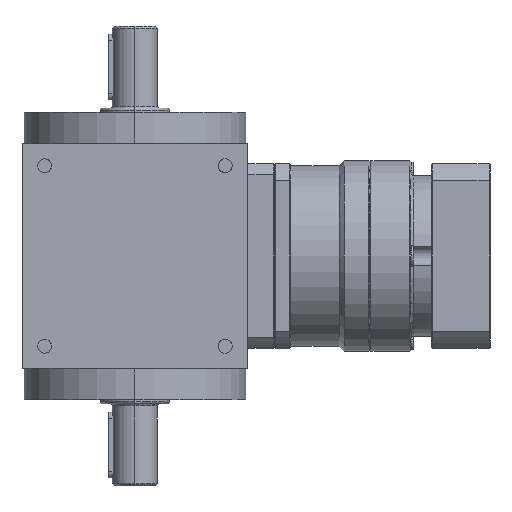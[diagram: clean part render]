
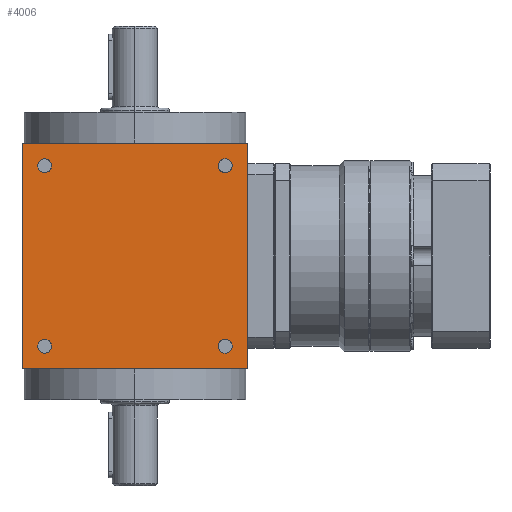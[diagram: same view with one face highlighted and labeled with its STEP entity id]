
A CAD part, left-side view. The second image highlights one B-rep face of the part: STEP entity #4006.
In plain terms, the highlighted planar face has unit normal (-1, 0, 0).
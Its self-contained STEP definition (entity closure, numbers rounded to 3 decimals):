
#140 = CARTESIAN_POINT ( 'NONE',  ( -55., 44., 44. ) ) ;
#451 = VECTOR ( 'NONE', #33646, 1000. ) ;
#1080 = ORIENTED_EDGE ( 'NONE', *, *, #14288, .T. ) ;
#1722 = PLANE ( 'NONE',  #2463 ) ;
#1997 = VERTEX_POINT ( 'NONE', #7296 ) ;
#2412 = ORIENTED_EDGE ( 'NONE', *, *, #6162, .T. ) ;
#2463 = AXIS2_PLACEMENT_3D ( 'NONE', #39707, #24111, #14844 ) ;
#2602 = DIRECTION ( 'NONE',  ( 1., 0., 0. ) ) ;
#3085 = LINE ( 'NONE', #15387, #3656 ) ;
#3389 = CARTESIAN_POINT ( 'NONE',  ( -55., -44., -40.6 ) ) ;
#3532 = AXIS2_PLACEMENT_3D ( 'NONE', #23368, #35496, #23161 ) ;
#3633 = ORIENTED_EDGE ( 'NONE', *, *, #23619, .T. ) ;
#3656 = VECTOR ( 'NONE', #28345, 1000. ) ;
#4006 = ADVANCED_FACE ( 'NONE', ( #23498, #7912, #4823, #17312, #39507 ), #1722, .T. ) ;
#4295 = CIRCLE ( 'NONE', #32394, 3.4 ) ;
#4499 = LINE ( 'NONE', #4694, #13729 ) ;
#4624 = CARTESIAN_POINT ( 'NONE',  ( -55., -44., -47.4 ) ) ;
#4694 = CARTESIAN_POINT ( 'NONE',  ( -55., -55., -55. ) ) ;
#4713 = DIRECTION ( 'NONE',  ( 0., 0., 1. ) ) ;
#4810 = DIRECTION ( 'NONE',  ( 0., 1., 0. ) ) ;
#4823 = FACE_BOUND ( 'NONE', #22951, .T. ) ;
#4826 = ORIENTED_EDGE ( 'NONE', *, *, #26013, .T. ) ;
#5166 = VERTEX_POINT ( 'NONE', #4624 ) ;
#6162 = EDGE_CURVE ( 'NONE', #19289, #19112, #4499, .T. ) ;
#6538 = CARTESIAN_POINT ( 'NONE',  ( -55., 44., 40.6 ) ) ;
#7296 = CARTESIAN_POINT ( 'NONE',  ( -55., -44., 47.4 ) ) ;
#7358 = EDGE_LOOP ( 'NONE', ( #31793, #25240, #2412, #20391 ) ) ;
#7625 = CARTESIAN_POINT ( 'NONE',  ( -55., -44., 40.6 ) ) ;
#7912 = FACE_BOUND ( 'NONE', #10055, .T. ) ;
#8185 = CARTESIAN_POINT ( 'NONE',  ( -55., -44., -44. ) ) ;
#8570 = DIRECTION ( 'NONE',  ( 1., 0., 0. ) ) ;
#8969 = CARTESIAN_POINT ( 'NONE',  ( -55., 44., -44. ) ) ;
#9539 = VERTEX_POINT ( 'NONE', #16061 ) ;
#9686 = CARTESIAN_POINT ( 'NONE',  ( -55., 44., -47.4 ) ) ;
#9786 = AXIS2_PLACEMENT_3D ( 'NONE', #8969, #8570, #31144 ) ;
#10042 = VERTEX_POINT ( 'NONE', #7625 ) ;
#10055 = EDGE_LOOP ( 'NONE', ( #3633, #4826 ) ) ;
#10542 = LINE ( 'NONE', #23065, #17039 ) ;
#10544 = EDGE_CURVE ( 'NONE', #33579, #18907, #32355, .T. ) ;
#12046 = VERTEX_POINT ( 'NONE', #37341 ) ;
#12106 = ORIENTED_EDGE ( 'NONE', *, *, #38649, .T. ) ;
#12670 = DIRECTION ( 'NONE',  ( 1., 0., 0. ) ) ;
#13062 = CIRCLE ( 'NONE', #9786, 3.4 ) ;
#13355 = CIRCLE ( 'NONE', #3532, 3.4 ) ;
#13681 = EDGE_CURVE ( 'NONE', #12046, #19289, #3085, .T. ) ;
#13729 = VECTOR ( 'NONE', #25646, 1000. ) ;
#14288 = EDGE_CURVE ( 'NONE', #18907, #33579, #31878, .T. ) ;
#14844 = DIRECTION ( 'NONE',  ( 0., 0., 1. ) ) ;
#15116 = DIRECTION ( 'NONE',  ( 0., 0., 1. ) ) ;
#15387 = CARTESIAN_POINT ( 'NONE',  ( -55., 55., -55. ) ) ;
#15820 = CIRCLE ( 'NONE', #31578, 3.4 ) ;
#16061 = CARTESIAN_POINT ( 'NONE',  ( -55., 55., 55. ) ) ;
#17039 = VECTOR ( 'NONE', #4810, 1000. ) ;
#17060 = CARTESIAN_POINT ( 'NONE',  ( -55., 44., -40.6 ) ) ;
#17312 = FACE_BOUND ( 'NONE', #37131, .T. ) ;
#17638 = DIRECTION ( 'NONE',  ( 0., 0., 1. ) ) ;
#18815 = CARTESIAN_POINT ( 'NONE',  ( -55., -44., -44. ) ) ;
#18907 = VERTEX_POINT ( 'NONE', #6538 ) ;
#19112 = VERTEX_POINT ( 'NONE', #19726 ) ;
#19289 = VERTEX_POINT ( 'NONE', #35986 ) ;
#19407 = AXIS2_PLACEMENT_3D ( 'NONE', #140, #12670, #25813 ) ;
#19726 = CARTESIAN_POINT ( 'NONE',  ( -55., -55., 55. ) ) ;
#20391 = ORIENTED_EDGE ( 'NONE', *, *, #28239, .T. ) ;
#20674 = DIRECTION ( 'NONE',  ( 1., 0., 0. ) ) ;
#20910 = LINE ( 'NONE', #33449, #451 ) ;
#20943 = DIRECTION ( 'NONE',  ( 1., 0., 0. ) ) ;
#21068 = ORIENTED_EDGE ( 'NONE', *, *, #24053, .T. ) ;
#22951 = EDGE_LOOP ( 'NONE', ( #12106, #28421 ) ) ;
#23065 = CARTESIAN_POINT ( 'NONE',  ( -55., 55., 55. ) ) ;
#23161 = DIRECTION ( 'NONE',  ( 0., 0., 1. ) ) ;
#23368 = CARTESIAN_POINT ( 'NONE',  ( -55., -44., 44. ) ) ;
#23498 = FACE_OUTER_BOUND ( 'NONE', #7358, .T. ) ;
#23619 = EDGE_CURVE ( 'NONE', #1997, #10042, #27654, .T. ) ;
#23802 = CARTESIAN_POINT ( 'NONE',  ( -55., 44., 44. ) ) ;
#23926 = ORIENTED_EDGE ( 'NONE', *, *, #39901, .T. ) ;
#24053 = EDGE_CURVE ( 'NONE', #40314, #5166, #15820, .T. ) ;
#24111 = DIRECTION ( 'NONE',  ( -1., 0., 0. ) ) ;
#24860 = VERTEX_POINT ( 'NONE', #9686 ) ;
#25240 = ORIENTED_EDGE ( 'NONE', *, *, #13681, .T. ) ;
#25646 = DIRECTION ( 'NONE',  ( 0., 0., 1. ) ) ;
#25813 = DIRECTION ( 'NONE',  ( 0., 0., 1. ) ) ;
#26013 = EDGE_CURVE ( 'NONE', #10042, #1997, #13355, .T. ) ;
#26664 = DIRECTION ( 'NONE',  ( 0., 0., 1. ) ) ;
#27567 = EDGE_CURVE ( 'NONE', #24860, #37732, #4295, .T. ) ;
#27654 = CIRCLE ( 'NONE', #36820, 3.4 ) ;
#28239 = EDGE_CURVE ( 'NONE', #19112, #9539, #10542, .T. ) ;
#28345 = DIRECTION ( 'NONE',  ( 0., -1., 0. ) ) ;
#28358 = AXIS2_PLACEMENT_3D ( 'NONE', #23802, #39603, #4713 ) ;
#28421 = ORIENTED_EDGE ( 'NONE', *, *, #27567, .T. ) ;
#30229 = AXIS2_PLACEMENT_3D ( 'NONE', #18815, #2602, #15116 ) ;
#30641 = EDGE_CURVE ( 'NONE', #9539, #12046, #20910, .T. ) ;
#30707 = EDGE_LOOP ( 'NONE', ( #36443, #1080 ) ) ;
#31144 = DIRECTION ( 'NONE',  ( 0., 0., 1. ) ) ;
#31578 = AXIS2_PLACEMENT_3D ( 'NONE', #8185, #20674, #26664 ) ;
#31793 = ORIENTED_EDGE ( 'NONE', *, *, #30641, .T. ) ;
#31878 = CIRCLE ( 'NONE', #19407, 3.4 ) ;
#32355 = CIRCLE ( 'NONE', #28358, 3.4 ) ;
#32394 = AXIS2_PLACEMENT_3D ( 'NONE', #36589, #20943, #33486 ) ;
#32496 = CARTESIAN_POINT ( 'NONE',  ( -55., 44., 47.4 ) ) ;
#33070 = DIRECTION ( 'NONE',  ( 1., 0., 0. ) ) ;
#33449 = CARTESIAN_POINT ( 'NONE',  ( -55., 55., -55. ) ) ;
#33469 = CARTESIAN_POINT ( 'NONE',  ( -55., -44., 44. ) ) ;
#33486 = DIRECTION ( 'NONE',  ( 0., 0., 1. ) ) ;
#33579 = VERTEX_POINT ( 'NONE', #32496 ) ;
#33646 = DIRECTION ( 'NONE',  ( 0., 0., -1. ) ) ;
#35496 = DIRECTION ( 'NONE',  ( 1., 0., 0. ) ) ;
#35986 = CARTESIAN_POINT ( 'NONE',  ( -55., -55., -55. ) ) ;
#36443 = ORIENTED_EDGE ( 'NONE', *, *, #10544, .T. ) ;
#36589 = CARTESIAN_POINT ( 'NONE',  ( -55., 44., -44. ) ) ;
#36820 = AXIS2_PLACEMENT_3D ( 'NONE', #33469, #33070, #17638 ) ;
#37131 = EDGE_LOOP ( 'NONE', ( #21068, #23926 ) ) ;
#37341 = CARTESIAN_POINT ( 'NONE',  ( -55., 55., -55. ) ) ;
#37732 = VERTEX_POINT ( 'NONE', #17060 ) ;
#38649 = EDGE_CURVE ( 'NONE', #37732, #24860, #13062, .T. ) ;
#39507 = FACE_BOUND ( 'NONE', #30707, .T. ) ;
#39603 = DIRECTION ( 'NONE',  ( 1., 0., 0. ) ) ;
#39707 = CARTESIAN_POINT ( 'NONE',  ( -55., 55., -55. ) ) ;
#39901 = EDGE_CURVE ( 'NONE', #5166, #40314, #40074, .T. ) ;
#40074 = CIRCLE ( 'NONE', #30229, 3.4 ) ;
#40314 = VERTEX_POINT ( 'NONE', #3389 ) ;
